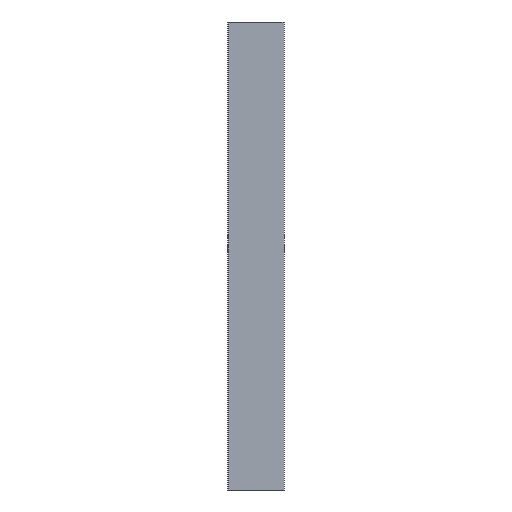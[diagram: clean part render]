
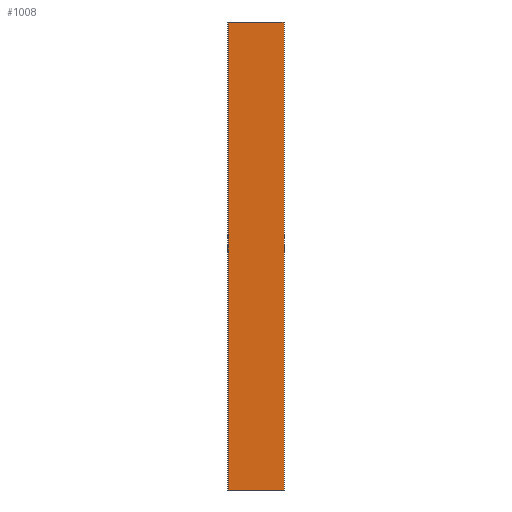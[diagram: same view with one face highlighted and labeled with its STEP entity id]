
A CAD part, left-side view. The second image highlights one B-rep face of the part: STEP entity #1008.
In plain terms, the highlighted planar face has unit normal (-1, 0, 0).
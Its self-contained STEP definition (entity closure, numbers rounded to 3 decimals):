
#4 = AXIS2_PLACEMENT_3D ( 'NONE', #227, #663, #1199 ) ;
#17 = LINE ( 'NONE', #1344, #1381 ) ;
#59 = VERTEX_POINT ( 'NONE', #702 ) ;
#72 = EDGE_CURVE ( 'NONE', #690, #1298, #17, .T. ) ;
#185 = EDGE_CURVE ( 'NONE', #1058, #1298, #424, .T. ) ;
#216 = ORIENTED_EDGE ( 'NONE', *, *, #1141, .T. ) ;
#227 = CARTESIAN_POINT ( 'NONE',  ( -6.8, 4., 371. ) ) ;
#228 = EDGE_CURVE ( 'NONE', #1058, #59, #1211, .T. ) ;
#232 = FACE_OUTER_BOUND ( 'NONE', #505, .T. ) ;
#379 = DIRECTION ( 'NONE',  ( 0., 0., -1. ) ) ;
#423 = ORIENTED_EDGE ( 'NONE', *, *, #185, .F. ) ;
#424 = LINE ( 'NONE', #920, #962 ) ;
#488 = DIRECTION ( 'NONE',  ( 0., 0., 1. ) ) ;
#505 = EDGE_LOOP ( 'NONE', ( #540, #423, #1389, #216 ) ) ;
#523 = VECTOR ( 'NONE', #889, 1000. ) ;
#540 = ORIENTED_EDGE ( 'NONE', *, *, #72, .T. ) ;
#564 = CARTESIAN_POINT ( 'NONE',  ( -6.8, 118.7, 371. ) ) ;
#647 = VECTOR ( 'NONE', #379, 1000. ) ;
#663 = DIRECTION ( 'NONE',  ( 1., 0., 0. ) ) ;
#690 = VERTEX_POINT ( 'NONE', #1288 ) ;
#702 = CARTESIAN_POINT ( 'NONE',  ( -6.8, 118.7, -729. ) ) ;
#804 = DIRECTION ( 'NONE',  ( 0., -1., 0. ) ) ;
#806 = CARTESIAN_POINT ( 'NONE',  ( -6.8, -12.5, 371. ) ) ;
#889 = DIRECTION ( 'NONE',  ( 0., -1., 0. ) ) ;
#920 = CARTESIAN_POINT ( 'NONE',  ( -6.8, 4., 371. ) ) ;
#956 = LINE ( 'NONE', #1002, #523 ) ;
#962 = VECTOR ( 'NONE', #804, 1000. ) ;
#1002 = CARTESIAN_POINT ( 'NONE',  ( -6.8, 4., -729. ) ) ;
#1008 = ADVANCED_FACE ( 'NONE', ( #232 ), #1085, .F. ) ;
#1058 = VERTEX_POINT ( 'NONE', #564 ) ;
#1085 = PLANE ( 'NONE',  #4 ) ;
#1122 = CARTESIAN_POINT ( 'NONE',  ( -6.8, 118.7, 0. ) ) ;
#1141 = EDGE_CURVE ( 'NONE', #59, #690, #956, .T. ) ;
#1199 = DIRECTION ( 'NONE',  ( 0., 1., 0. ) ) ;
#1211 = LINE ( 'NONE', #1122, #647 ) ;
#1288 = CARTESIAN_POINT ( 'NONE',  ( -6.8, -12.5, -729. ) ) ;
#1298 = VERTEX_POINT ( 'NONE', #806 ) ;
#1344 = CARTESIAN_POINT ( 'NONE',  ( -6.8, -12.5, 371. ) ) ;
#1381 = VECTOR ( 'NONE', #488, 1000. ) ;
#1389 = ORIENTED_EDGE ( 'NONE', *, *, #228, .T. ) ;
